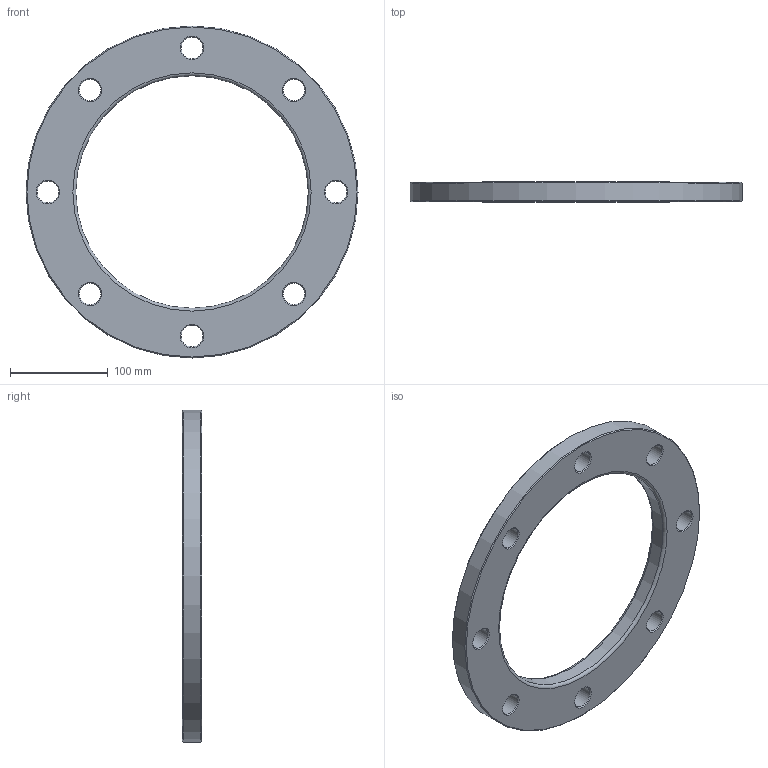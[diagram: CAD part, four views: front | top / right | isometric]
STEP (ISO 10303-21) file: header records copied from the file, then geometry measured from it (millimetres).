
FILE_DESCRIPTION(/* description */ ('Unknown'),/* implementation_level */ '2;1');
FILE_NAME(/* name */ 'FZ225B',/* time_stamp */ '2021-03-15T10:01:17+01:00',/* author */ ('Unknown'),/* organization */ ('Unknown'),/* preprocessor_version */ 'ST-DEVELOPER v16.7',/* originating_system */ 'Solid Edge',/* authorisation */ 'Unknown');
FILE_SCHEMA (('AUTOMOTIVE_DESIGN {1 0 10303 214 3 1 1}'));
Length unit declared in the file: millimetre
Products named in the file (1): FZ225B
Bounding box: 340 x 20 x 340 mm (x, y, z)
Volume: 860717.2 mm3; surface area: 130102.5 mm2
Topology: 1 solids, 1 shells, 32 faces, 94 edges, 64 vertices
Faces by surface type: cone 18, cylinder 10, plane 2, torus 2
Full cylindrical faces by diameter (mm): 22 x8, 238 x1, 340 x1
Entity records: 790 total; most frequent: DIRECTION 146, CARTESIAN_POINT 113, ORIENTED_EDGE 80, EDGE_LOOP 80, FACE_BOUND 80, AXIS2_PLACEMENT_3D 73, EDGE_CURVE 40, VERTEX_POINT 40
